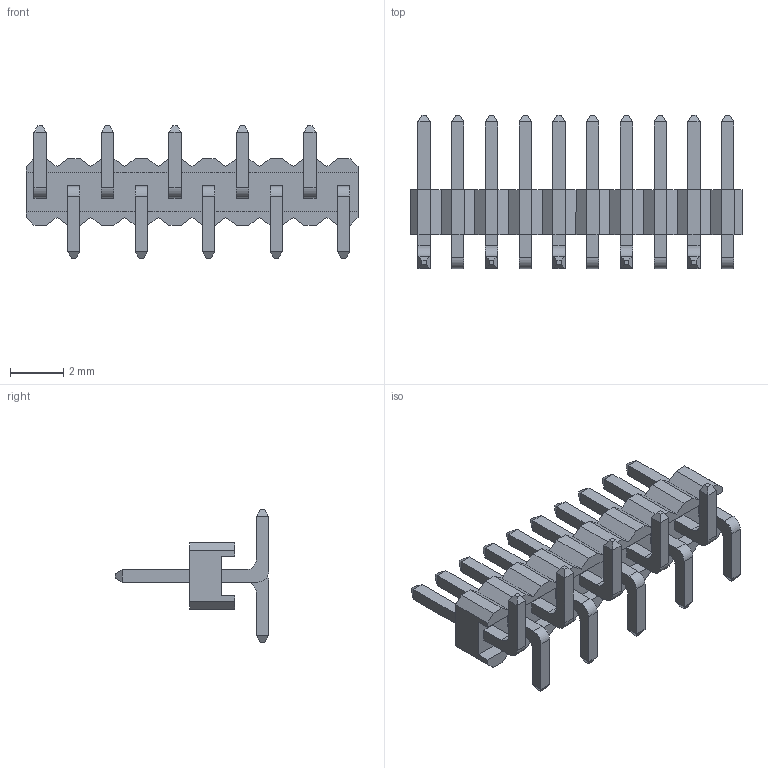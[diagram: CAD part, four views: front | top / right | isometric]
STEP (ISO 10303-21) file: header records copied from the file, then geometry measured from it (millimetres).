
FILE_DESCRIPTION (( 'STEP AP214' ), '1' );
FILE_NAME ('2211-1X10G00DAB.STEP', '2017-06-09T01:55:01', ( 'RD05' ), ( '' ), 'SwSTEP 2.0', 'SolidWorks 2011', '' );
FILE_SCHEMA (( 'AUTOMOTIVE_DESIGN' ));
Length unit declared in the file: millimetre
Products named in the file (3): P-2211-1XxxG00DAB; H-2211-1XxxG00DAB; 2211-1X10G00DAB
Assembly tree (11 placements, depth 2):
  2211-1X10G00DAB
    P-2211-1XxxG00DAB  x10
    H-2211-1XxxG00DAB
Bounding box: 12.5 x 5.77 x 5 mm (x, y, z)
Volume: 53.7 mm3; surface area: 251.8 mm2
Topology: 21 solids, 21 shells, 308 faces, 718 edges, 452 vertices
Faces by surface type: plane 288, cylinder 20
Entity records: 3025 total; most frequent: CARTESIAN_POINT 520, ORIENTED_EDGE 500, DIRECTION 466, EDGE_CURVE 250, VECTOR 246, LINE 246, VERTEX_POINT 164, AXIS2_PLACEMENT_3D 110
